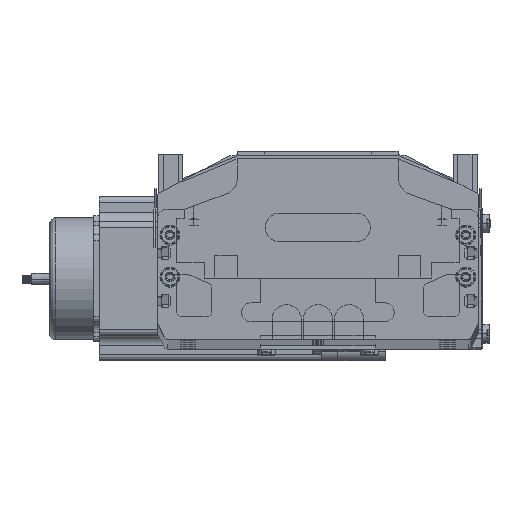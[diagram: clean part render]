
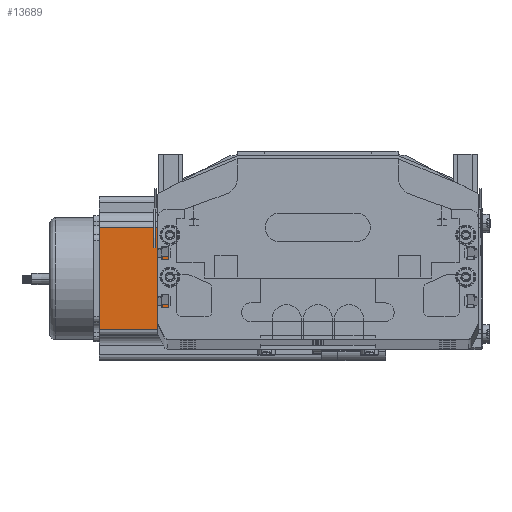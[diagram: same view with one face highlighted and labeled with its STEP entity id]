
A CAD part, top view. The second image highlights one B-rep face of the part: STEP entity #13689.
In plain terms, the highlighted planar face has unit normal (0, 0, 1) as drawn and (0, -1, 0) by its records, which use the part's own axes.
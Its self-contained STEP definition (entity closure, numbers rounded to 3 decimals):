
#13664 = VERTEX_POINT ( 'NONE', #30711 ) ;
#13667 = VERTEX_POINT ( 'NONE', #30565 ) ;
#13685 = VERTEX_POINT ( 'NONE', #31015 ) ;
#13688 = EDGE_CURVE ( 'NONE', #13667, #13685, #30915, .T. ) ;
#13689 = ADVANCED_FACE ( 'NONE', ( #30741 ), #31011, .F. ) ;
#13690 = EDGE_LOOP ( 'NONE', ( #13731, #13729, #13741, #13748 ) ) ;
#13729 = ORIENTED_EDGE ( 'NONE', *, *, #13733, .T. ) ;
#13731 = ORIENTED_EDGE ( 'NONE', *, *, #13688, .T. ) ;
#13733 = EDGE_CURVE ( 'NONE', #13685, #13664, #31259, .T. ) ;
#13737 = VERTEX_POINT ( 'NONE', #31149 ) ;
#13738 = EDGE_CURVE ( 'NONE', #13737, #13664, #31209, .T. ) ;
#13741 = ORIENTED_EDGE ( 'NONE', *, *, #13738, .F. ) ;
#13742 = EDGE_CURVE ( 'NONE', #13737, #13667, #31300, .T. ) ;
#13748 = ORIENTED_EDGE ( 'NONE', *, *, #13742, .T. ) ;
#30565 = CARTESIAN_POINT ( 'NONE',  ( 16.16, 0., 0. ) ) ;
#30711 = CARTESIAN_POINT ( 'NONE',  ( 69.74, 0., 116.5 ) ) ;
#30741 = FACE_OUTER_BOUND ( 'NONE', #13690, .T. ) ;
#30845 = AXIS2_PLACEMENT_3D ( 'NONE', #30896, #31013, #30918 ) ;
#30896 = CARTESIAN_POINT ( 'NONE',  ( 0., 0., 116.5 ) ) ;
#30897 = DIRECTION ( 'NONE',  ( 1., 0., 0. ) ) ;
#30898 = VECTOR ( 'NONE', #30897, 1000. ) ;
#30914 = CARTESIAN_POINT ( 'NONE',  ( 0., 0., 0. ) ) ;
#30915 = LINE ( 'NONE', #30914, #30898 ) ;
#30918 = DIRECTION ( 'NONE',  ( 0., 0., 1. ) ) ;
#31011 = PLANE ( 'NONE',  #30845 ) ;
#31013 = DIRECTION ( 'NONE',  ( 0., 1., 0. ) ) ;
#31015 = CARTESIAN_POINT ( 'NONE',  ( 69.74, 0., 0. ) ) ;
#31149 = CARTESIAN_POINT ( 'NONE',  ( 16.16, 0., 116.5 ) ) ;
#31168 = DIRECTION ( 'NONE',  ( 0., 0., 1. ) ) ;
#31194 = CARTESIAN_POINT ( 'NONE',  ( 69.74, 0., 116.5 ) ) ;
#31208 = CARTESIAN_POINT ( 'NONE',  ( 0., 0., 116.5 ) ) ;
#31209 = LINE ( 'NONE', #31208, #31283 ) ;
#31259 = LINE ( 'NONE', #31194, #31292 ) ;
#31282 = DIRECTION ( 'NONE',  ( 1., 0., 0. ) ) ;
#31283 = VECTOR ( 'NONE', #31282, 1000. ) ;
#31292 = VECTOR ( 'NONE', #31168, 1000. ) ;
#31295 = DIRECTION ( 'NONE',  ( 0., 0., -1. ) ) ;
#31298 = VECTOR ( 'NONE', #31295, 1000. ) ;
#31299 = CARTESIAN_POINT ( 'NONE',  ( 16.16, 0., 116.5 ) ) ;
#31300 = LINE ( 'NONE', #31299, #31298 ) ;
